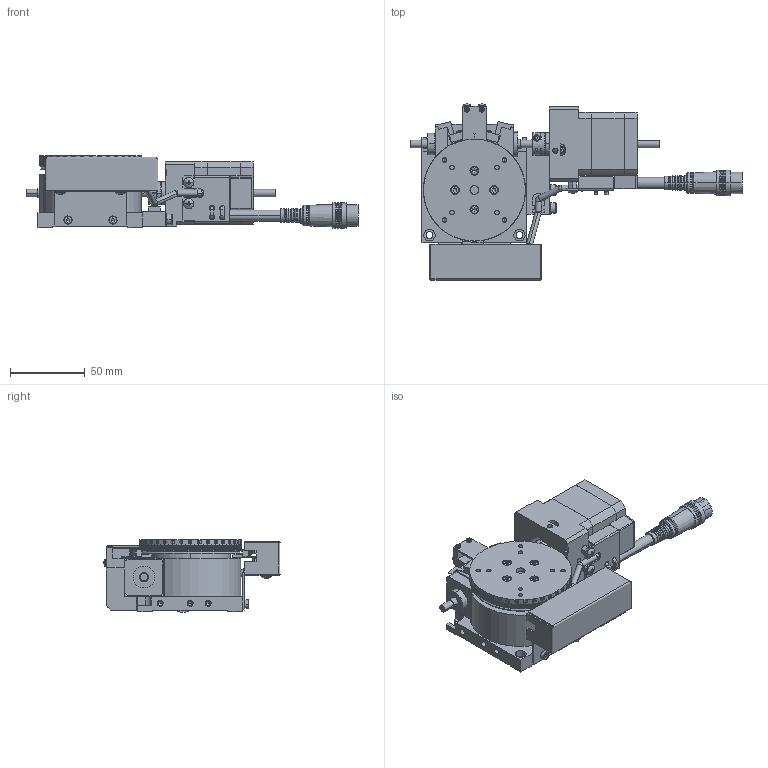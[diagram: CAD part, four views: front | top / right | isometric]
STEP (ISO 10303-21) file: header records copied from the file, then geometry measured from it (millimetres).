
FILE_DESCRIPTION (( 'STEP AP203' ), '1' );
FILE_NAME ('RA07A-W02-R.STEP', '2019-02-20T00:51:43', ( '' ), ( '' ), 'SwSTEP 2.0', 'SolidWorks 2018', '' );
FILE_SCHEMA (( 'CONFIG_CONTROL_DESIGN' ));
Length unit declared in the file: millimetre
Products named in the file (13): table-Part-1; table-Part-5; base-Part-2; base-Part-5; base-Part-1; base; table-Part-3; table; table-Part-4; table-Part-2; RA07A-W02-R; base-Part-3; base-Part-4
Assembly tree (12 placements, depth 3):
  RA07A-W02-R
    table
      table-Part-1
      table-Part-2
      table-Part-3
      table-Part-4
      table-Part-5
    base
      base-Part-1
      base-Part-2
      base-Part-3
      base-Part-4
      base-Part-5
Bounding box: 221.5 x 117.49 x 48.5 mm (x, y, z)
Volume: 332571.6 mm3; surface area: 94323.5 mm2
Topology: 10 solids, 14 shells, 4615 faces, 12344 edges, 7988 vertices
Faces by surface type: plane 3222, cylinder 1027, cone 286, torus 54, sphere 26
Entity records: 145420 total; most frequent: CARTESIAN_POINT 28512, ORIENTED_EDGE 24556, DIRECTION 24284, EDGE_CURVE 12278, AXIS2_PLACEMENT_3D 8400, VERTEX_POINT 7988, LINE 7484, VECTOR 7484
